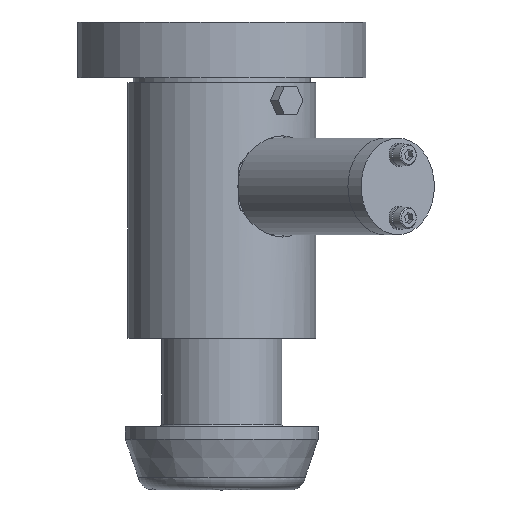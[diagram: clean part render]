
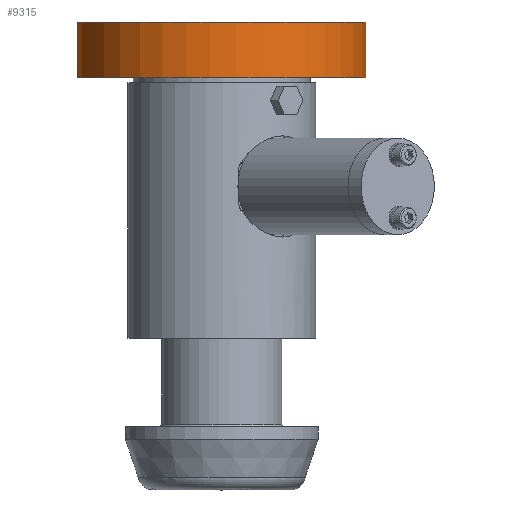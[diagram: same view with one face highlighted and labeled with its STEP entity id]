
A CAD part, left-side view. The second image highlights one B-rep face of the part: STEP entity #9315.
In plain terms, the highlighted cylindrical face has radius 57.15 mm (diameter 114.3 mm), a full revolution.
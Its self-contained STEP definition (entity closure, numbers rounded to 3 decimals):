
#852=FACE_OUTER_BOUND('',#1479,.T.);
#1479=EDGE_LOOP('',(#6604,#6605,#6606,#6607));
#2109=LINE('',#15021,#2635);
#2635=VECTOR('',#11838,57.15);
#3300=CIRCLE('',#10149,57.15);
#3301=CIRCLE('',#10150,57.15);
#4026=VERTEX_POINT('',#15018);
#4027=VERTEX_POINT('',#15020);
#5010=EDGE_CURVE('',#4026,#4026,#3300,.T.);
#5011=EDGE_CURVE('',#4026,#4027,#2109,.T.);
#5012=EDGE_CURVE('',#4027,#4027,#3301,.T.);
#6604=ORIENTED_EDGE('',*,*,#5010,.T.);
#6605=ORIENTED_EDGE('',*,*,#5011,.T.);
#6606=ORIENTED_EDGE('',*,*,#5012,.F.);
#6607=ORIENTED_EDGE('',*,*,#5011,.F.);
#8606=CYLINDRICAL_SURFACE('',#10148,57.15);
#9315=ADVANCED_FACE('',(#852),#8606,.T.);
#10148=AXIS2_PLACEMENT_3D('',#15017,#11834,#11835);
#10149=AXIS2_PLACEMENT_3D('',#15019,#11836,#11837);
#10150=AXIS2_PLACEMENT_3D('',#15022,#11839,#11840);
#11834=DIRECTION('center_axis',(0.,0.,
-1.));
#11835=DIRECTION('ref_axis',(-0.997,0.079,0.));
#11836=DIRECTION('center_axis',(0.,0.,
1.));
#11837=DIRECTION('ref_axis',(-0.997,0.079,0.));
#11838=DIRECTION('',(0.,0.,1.));
#11839=DIRECTION('center_axis',(0.,0.,
1.));
#11840=DIRECTION('ref_axis',(-0.997,0.079,0.));
#15017=CARTESIAN_POINT('Origin',(0.,0.,
0.));
#15018=CARTESIAN_POINT('',(56.972,-4.509,-22.));
#15019=CARTESIAN_POINT('Origin',(0.,0.,
-22.));
#15020=CARTESIAN_POINT('',(56.972,-4.509,0.));
#15021=CARTESIAN_POINT('',(56.972,-4.509,0.));
#15022=CARTESIAN_POINT('Origin',(0.,0.,
0.));
